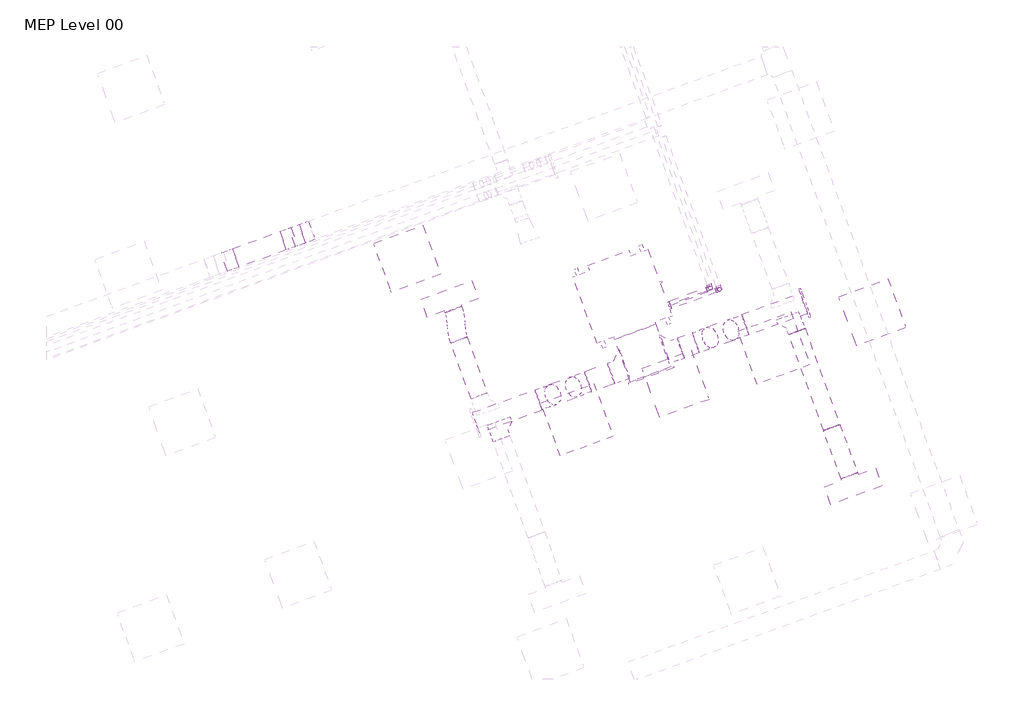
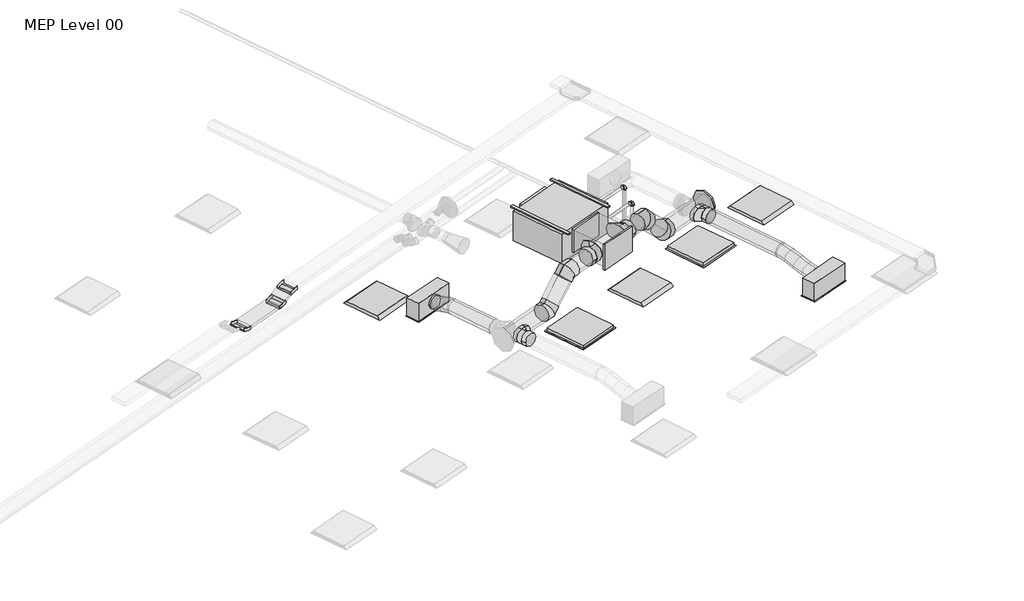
# One storey, part 28 of 33: 11 duct segments, 10 duct fittings, 4 air terminals, 4 pipe fittings, 4 pipe segments, 3 cable carrier fittings, 3 light fixtures, 2 cable carrier segments, 1 proxy.
"""IFC4 building model written with IfcOpenShell, lengths in millimetres."""

from ifc_helpers import new_model, si_unit, point, frame, frame_2d, origin, place, context, project, spatial, polyline, circle_curve, ellipse_curve, trimmed, segment, composite_curve, outline, extrude, transform, mapped, element, save
from ifc_brep_helpers import plane_surface, cylinder_surface, advanced_brep
from components import return_grille_rectangular_hosted_standard_7b12617c, supply_diffuser_with_plenum_linear_slot_hosted_8c379eed, fan_coil_unit_ceiling_ducted_chw_376_lps_233c1d69, cable_tray_vertical_inside_bend_standard_9a66f55b, cable_tray_vertical_outside_bend_standard_4df2047e, dw144_rectangular_blank_end_standard_1669e3e3, dw144_round_blank_end_standard_e3d0b58b, dw144_round_segmented_bend_slip_joint_standard_636bd9c1, dw144_round_shoe_branch_slip_joint_standard_15a2edd8, dw144_round_shoe_branch_slip_joint_standard_559552f4, dw144_round_shoe_branch_slip_joint_standard_4a92c8a1, dw144_round_shoe_branch_slip_joint_standard_671412f0, light_fixture_600x600_230_1c7c1157, light_fixture_600x600_230_b730b5ca, elbow_threaded_gmi_standard_b4aa7741

model = new_model("IFC4")

# Units and contexts
model_context = context("Model", 3, world=origin())
ifc_project = project(units=[si_unit("LENGTHUNIT", "METRE", prefix="MILLI")], contexts=[model_context])

# Site, building, storey
site = spatial("IfcSite", under=ifc_project)
building = spatial("IfcBuilding", under=site)
storey = spatial("IfcBuildingStorey", under=building, Name="MEP Level 00", Elevation=0.0)

# Air terminals
placement = place(None, origin())
return_grille_rectangular_hosted_standard_shape = return_grille_rectangular_hosted_standard_7b12617c(model_context)
element("IfcAirTerminal", 1, ObjectType="Return Grille - Rectangular - Hosted : Standard", at=placement, inside=storey, context=model_context, shape_type="MappedRepresentation", body=[
    mapped(return_grille_rectangular_hosted_standard_shape, transform((60068.7424503, 13719.2784407, 2800.0), x_axis=(0.9396926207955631, 0.3420201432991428, 0.0), y_axis=(0.3420201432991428, -0.9396926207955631, 0.0), z_axis=(0.0, 0.0, -1.0))),
])
element("IfcAirTerminal", 2, ObjectType="Return Grille - Rectangular - Hosted : Standard", at=placement, inside=storey, context=model_context, shape_type="MappedRepresentation", body=[
    mapped(return_grille_rectangular_hosted_standard_shape, transform((62324.0047402, 14540.1267847, 2800.0), x_axis=(0.9396926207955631, 0.3420201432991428, 0.0), y_axis=(0.3420201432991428, -0.9396926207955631, 0.0), z_axis=(0.0, 0.0, -1.0))),
])
supply_diffuser_with_plenum_linear_slot_hosted_shape = supply_diffuser_with_plenum_linear_slot_hosted_8c379eed(model_context)
element("IfcAirTerminal", 3, ObjectType="Supply Diffuser with Plenum - Linear Slot - Hosted : 600mmx193.8mm-200 In Inlet  4-Slot", at=placement, inside=storey, context=model_context, shape_type="MappedRepresentation", body=[
    mapped(supply_diffuser_with_plenum_linear_slot_hosted_shape, transform((58607.3828335, 15102.9070291, 2800.0), x_axis=(-0.9396926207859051, -0.3420201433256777, 0.0), y_axis=(-0.3420201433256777, 0.9396926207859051, 0.0), z_axis=(0.0, 0.0, -1.0))),
])
element("IfcAirTerminal", 4, ObjectType="Supply Diffuser with Plenum - Linear Slot - Hosted : 600mmx193.8mm-200 In Inlet  4-Slot", at=placement, inside=storey, context=model_context, shape_type="MappedRepresentation", body=[
    mapped(supply_diffuser_with_plenum_linear_slot_hosted_shape, transform((63232.5431876, 12955.2877458, 2800.0), x_axis=(0.9396926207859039, 0.342020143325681, 0.0), y_axis=(0.342020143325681, -0.9396926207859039, 0.0), z_axis=(0.0, 0.0, -1.0))),
])

# Proxy
fan_coil_unit_ceiling_ducted_chw_376_lps_shape = fan_coil_unit_ceiling_ducted_chw_376_lps_233c1d69(model_context)
element("IfcBuildingElementProxy", 5, Name="Fan Coil Unit - Ceiling Ducted - CHW : 376 LPS", ObjectType="Fan Coil Unit - Ceiling Ducted - CHW : 376 LPS", at=placement, inside=storey, context=model_context, shape_type="MappedRepresentation", body=[
    mapped(fan_coil_unit_ceiling_ducted_chw_376_lps_shape, transform((60297.8420212, 14594.4554515, 3215.575), x_axis=(0.9396926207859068, 0.34202014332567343, 0.0), y_axis=(-0.34202014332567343, 0.9396926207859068, 0.0), z_axis=(0.0, 0.0, 1.0))),
])

# Cable carrier fittings
cable_tray_vertical_inside_bend_standard_shape = cable_tray_vertical_inside_bend_standard_9a66f55b(model_context)
element("IfcCableCarrierFitting", 6, ObjectType="Cable Tray Vertical Inside Bend : Standard", at=placement, inside=storey, context=model_context, shape_type="MappedRepresentation", body=[
    mapped(cable_tray_vertical_inside_bend_standard_shape, transform((56092.1995201, 15550.3330379, 3125.0), x_axis=(-0.9396926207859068, -0.3420201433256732, 0.0), y_axis=(0.0, 0.0, 1.0), z_axis=(-0.3420201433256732, 0.9396926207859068, 0.0))),
])
element("IfcCableCarrierFitting", 7, ObjectType="Cable Tray Vertical Inside Bend : Standard", at=placement, inside=storey, context=model_context, shape_type="MappedRepresentation", body=[
    mapped(cable_tray_vertical_inside_bend_standard_shape, transform((56761.0702068, 15793.7820584, 3125.0), x_axis=(-0.8137976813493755, -0.29619813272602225, -0.4999999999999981), y_axis=(-0.46984631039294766, -0.17101007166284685, 0.8660254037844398), z_axis=(-0.3420201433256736, 0.9396926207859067, 0.0))),
])
cable_tray_vertical_outside_bend_standard_shape = cable_tray_vertical_outside_bend_standard_4df2047e(model_context)
element("IfcCableCarrierFitting", 8, ObjectType="Cable Tray Vertical Outside Bend : Standard", at=placement, inside=storey, context=model_context, shape_type="MappedRepresentation", body=[
    mapped(cable_tray_vertical_outside_bend_standard_shape, transform((56962.8313802, 15867.2171199, 3248.9627355), x_axis=(0.8137976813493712, 0.29619813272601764, 0.5000000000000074), y_axis=(0.4698463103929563, 0.17101007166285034, -0.8660254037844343), z_axis=(-0.3420201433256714, 0.9396926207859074, 0.0))),
])

# Cable carrier segments
element("IfcCableCarrierSegment", 9, ObjectType="Perforated Cable Tray", at=placement, inside=storey, context=model_context, shape_type="SweptSolid", body=[
    extrude(outline(polyline([(56193.624256, 15467.5286233), (56116.6697237, 15678.959463), (56659.645471, 15876.5864729), (56736.6000032, 15665.1556332), (56193.624256, 15467.5286233)])), frame((0.0, 0.0, 3100.0), z_axis=(0.0, 0.0, 1.0), x_axis=(1.0, 0.0, 0.0)), (0.0, 0.0, 1.0), 50.0),
])
element("IfcCableCarrierSegment", 10, ObjectType="Perforated Cable Tray", at=placement, inside=storey, context=model_context, shape_type="SweptSolid", body=[
    extrude(outline(polyline([(1e-07, -224.9999999), (0.0, 0.0), (113.9508747, 0.0), (113.9508747, -224.9999999), (1e-07, -224.9999999)])), frame((56788.8532063, 15923.6142426, 3136.843014), z_axis=(-0.4698463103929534, -0.17101007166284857, 0.8660254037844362), x_axis=(0.813797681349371, 0.2961981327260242, 0.5000000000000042)), (0.0, 0.0, 1.0), 50.0),
])

# Duct fittings
dw144_rectangular_blank_end_standard_shape = dw144_rectangular_blank_end_standard_1669e3e3(model_context)
element("IfcDuctFitting", 11, ObjectType="DW144 Rectangular Blank End : Standard", at=placement, inside=storey, context=model_context, shape_type="MappedRepresentation", body=[
    mapped(dw144_rectangular_blank_end_standard_shape, transform((60913.8704656, 14238.6945827, 3469.575), x_axis=(0.34202014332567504, -0.9396926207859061, 0.0), y_axis=(0.9396926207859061, 0.34202014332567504, 0.0), z_axis=(0.0, 0.0, 1.0))),
])
dw144_round_blank_end_standard_shape = dw144_round_blank_end_standard_e3d0b58b(model_context)
element("IfcDuctFitting", 12, ObjectType="DW144 Round Blank End : Standard", at=placement, inside=storey, context=model_context, shape_type="MappedRepresentation", body=[
    mapped(dw144_round_blank_end_standard_shape, transform((62668.7217522, 15052.7517594, 3072.2088531), x_axis=(0.9396926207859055, 0.3420201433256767, 0.0), y_axis=(-0.3420201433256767, 0.9396926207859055, 0.0), z_axis=(0.0, 0.0, 1.0))),
])
dw144_round_segmented_bend_slip_joint_standard_shape = dw144_round_segmented_bend_slip_joint_standard_636bd9c1(model_context)
element("IfcDuctFitting", 13, ObjectType="DW144 Round Segmented Bend - Slip Joint : Standard", at=placement, inside=storey, context=model_context, shape_type="MappedRepresentation", body=[
    mapped(dw144_round_segmented_bend_slip_joint_standard_shape, transform((61898.7954922, 14772.5215182, 3072.2088531), x_axis=(0.6644630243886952, 0.24184476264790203, -0.7071067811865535), y_axis=(0.6644630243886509, 0.2418447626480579, 0.7071067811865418), z_axis=(0.3420201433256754, -0.939692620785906, 0.0))),
])
element("IfcDuctFitting", 14, ObjectType="DW144 Round Segmented Bend - Slip Joint : Standard", at=placement, inside=storey, context=model_context, shape_type="MappedRepresentation", body=[
    mapped(dw144_round_segmented_bend_slip_joint_standard_shape, transform((61525.3934562, 14636.6142917, 3469.575), x_axis=(0.9396926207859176, 0.3420201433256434, 0.0), y_axis=(0.0, 0.0, -1.0), z_axis=(-0.3420201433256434, 0.9396926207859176, 0.0))),
])
element("IfcDuctFitting", 15, ObjectType="DW144 Round Segmented Bend - Slip Joint : Standard", at=placement, inside=storey, context=model_context, shape_type="MappedRepresentation", body=[
    mapped(dw144_round_segmented_bend_slip_joint_standard_shape, transform((59723.6586367, 13980.8364474, 3072.2088531), x_axis=(-0.6644630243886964, -0.24184476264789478, -0.7071067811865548), y_axis=(-0.6644630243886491, -0.24184476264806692, 0.7071067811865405), z_axis=(-0.34202014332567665, 0.9396926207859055, 0.0))),
])
element("IfcDuctFitting", 16, ObjectType="DW144 Round Segmented Bend - Slip Joint : Standard", at=placement, inside=storey, context=model_context, shape_type="MappedRepresentation", body=[
    mapped(dw144_round_segmented_bend_slip_joint_standard_shape, transform((60097.0606726, 14116.7436739, 3469.575), x_axis=(-0.9396926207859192, -0.3420201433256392, 0.0), y_axis=(0.0, 0.0, -1.0000000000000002), z_axis=(0.3420201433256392, -0.9396926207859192, 0.0))),
])
dw144_round_shoe_branch_slip_joint_standard_shape = dw144_round_shoe_branch_slip_joint_standard_15a2edd8(model_context)
element("IfcDuctFitting", 17, ObjectType="DW144 Round Shoe Branch - Slip Joint : Standard", at=placement, inside=storey, context=model_context, shape_type="MappedRepresentation", body=[
    mapped(dw144_round_shoe_branch_slip_joint_standard_shape, transform((62535.2291867, 14871.1422175, 3072.2088531), x_axis=(0.3420201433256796, -0.9396926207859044, 0.0), y_axis=(0.9396926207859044, 0.3420201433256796, 0.0), z_axis=(0.0, 0.0, 1.0))),
])
dw144_round_shoe_branch_slip_joint_standard_2_shape = dw144_round_shoe_branch_slip_joint_standard_559552f4(model_context)
element("IfcDuctFitting", 18, ObjectType="DW144 Round Shoe Branch - Slip Joint : Standard", at=placement, inside=storey, context=model_context, shape_type="MappedRepresentation", body=[
    mapped(dw144_round_shoe_branch_slip_joint_standard_2_shape, transform((59152.3357519, 13639.8697016, 3072.2088531), x_axis=(0.3420201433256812, -0.9396926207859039, 0.0), y_axis=(0.9396926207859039, 0.3420201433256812, 0.0), z_axis=(0.0, 0.0, 1.0))),
])
dw144_round_shoe_branch_slip_joint_standard_3_shape = dw144_round_shoe_branch_slip_joint_standard_4a92c8a1(model_context)
element("IfcDuctFitting", 19, ObjectType="DW144 Round Shoe Branch - Slip Joint : Standard", at=placement, inside=storey, context=model_context, shape_type="MappedRepresentation", body=[
    mapped(dw144_round_shoe_branch_slip_joint_standard_3_shape, transform((61092.4392924, 14479.0318633, 3469.575), x_axis=(0.9396926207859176, 0.3420201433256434, 0.0), y_axis=(0.3420201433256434, -0.9396926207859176, 0.0), z_axis=(0.0, 0.0, -1.0))),
])
dw144_round_shoe_branch_slip_joint_standard_4_shape = dw144_round_shoe_branch_slip_joint_standard_671412f0(model_context)
element("IfcDuctFitting", 20, ObjectType="DW144 Round Shoe Branch - Slip Joint : Standard", at=placement, inside=storey, context=model_context, shape_type="MappedRepresentation", body=[
    mapped(dw144_round_shoe_branch_slip_joint_standard_4_shape, transform((60622.592982, 14308.0217916, 3469.575), x_axis=(-0.9396926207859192, -0.3420201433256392, 0.0), y_axis=(-0.3420201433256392, 0.9396926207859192, 0.0), z_axis=(0.0, 0.0, -1.0))),
])

# Duct segments
element("IfcDuctSegment", 21, ObjectType="DW144 Flanged Med Radius Bend / Shoe Branch", at=placement, inside=storey, context=model_context, shape_type="SweptSolid", body=[
    extrude(outline(polyline([(60501.2336439, 14641.4538326), (60971.0799543, 14812.4639042), (61148.7936208, 14324.1996185), (60678.9473104, 14153.1895468), (60501.2336439, 14641.4538326)])), frame((0.0, 0.0, 3294.575), z_axis=(0.0, 0.0, 1.0), x_axis=(1.0, 0.0, 0.0)), (0.0, 0.0, 1.0), 350.0),
])
element("IfcDuctSegment", 22, ObjectType="DW144 Segmented Bend / Shoe Branch", at=placement, inside=storey, context=model_context, shape_type="SweptSolid", body=[
    extrude(outline(composite_curve([segment(trimmed(circle_curve(frame_2d((0.0, -125.0)), 125.0), [point((-125.0, -125.0))], [point((0.0, 0.0))], False, "CARTESIAN"), True, "CONTINUOUS"), segment(trimmed(circle_curve(frame_2d((0.0, -125.0)), 125.0), [point((0.0, 0.0))], [point((125.0, -125.0))], False, "CARTESIAN"), True, "CONTINUOUS"), segment(trimmed(circle_curve(frame_2d((0.0, -125.0)), 125.0), [point((125.0, -125.0))], [point((0.0, -250.0))], False, "CARTESIAN"), True, "CONTINUOUS"), segment(trimmed(circle_curve(frame_2d((0.0, -125.0)), 125.0), [point((0.0, -250.0))], [point((-125.0, -125.0))], False, "CARTESIAN"), True, "CONTINUOUS")], self_intersect=False)), frame((61996.1038492, 14807.9388637, 2947.2088531), z_axis=(0.9396926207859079, 0.3420201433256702, 0.0), x_axis=(0.3420201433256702, -0.9396926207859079, 0.0)), (0.0, 0.0, 1.0), 715.7850217),
])
element("IfcDuctSegment", 23, ObjectType="DW144 Segmented Bend / Shoe Branch", at=placement, inside=storey, context=model_context, shape_type="SweptSolid", body=[
    extrude(outline(composite_curve([segment(trimmed(circle_curve(frame_2d((0.0, 125.0)), 125.0), [point((125.0, 125.0))], [point((0.0, 0.0))], False, "CARTESIAN"), True, "CONTINUOUS"), segment(trimmed(circle_curve(frame_2d((0.0, 125.0)), 125.0), [point((0.0, 0.0))], [point((-125.0, 125.0))], False, "CARTESIAN"), True, "CONTINUOUS"), segment(trimmed(circle_curve(frame_2d((0.0, 125.0)), 125.0), [point((-125.0, 125.0))], [point((0.0, 250.0))], False, "CARTESIAN"), True, "CONTINUOUS"), segment(trimmed(circle_curve(frame_2d((0.0, 125.0)), 125.0), [point((0.0, 250.0))], [point((125.0, 125.0))], False, "CARTESIAN"), True, "CONTINUOUS")], self_intersect=False)), frame((58910.1934303, 13684.7593256, 3197.2088531), z_axis=(0.9396926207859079, 0.3420201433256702, 0.0), x_axis=(0.3420201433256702, -0.9396926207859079, 0.0)), (0.0, 0.0, 1.0), 762.1182008),
])
element("IfcDuctSegment", 24, ObjectType="DW144 Segmented Bend / Shoe Branch", at=placement, inside=storey, context=model_context, shape_type="SweptSolid", body=[
    extrude(outline(composite_curve([segment(trimmed(circle_curve(frame_2d((0.0, -100.0)), 100.0), [point((-100.0, -100.0))], [point((0.0, 0.0))], False, "CARTESIAN"), True, "CONTINUOUS"), segment(trimmed(circle_curve(frame_2d((0.0, -100.0)), 100.0), [point((0.0, 0.0))], [point((100.0, -100.0))], False, "CARTESIAN"), True, "CONTINUOUS"), segment(trimmed(circle_curve(frame_2d((0.0, -100.0)), 100.0), [point((100.0, -100.0))], [point((0.0, -200.0))], False, "CARTESIAN"), True, "CONTINUOUS"), segment(trimmed(circle_curve(frame_2d((0.0, -100.0)), 100.0), [point((0.0, -200.0))], [point((-100.0, -100.0))], False, "CARTESIAN"), True, "CONTINUOUS")], self_intersect=False)), frame((62987.2757878, 13629.1543884, 2972.2088531), z_axis=(-0.34202014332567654, 0.9396926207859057, 0.0), x_axis=(0.9396926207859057, 0.34202014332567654, 0.0)), (0.0, 0.0, 1.0), 1171.6958415),
])
element("IfcDuctSegment", 25, ObjectType="DW144 Segmented Bend / Shoe Branch", at=placement, inside=storey, context=model_context, shape_type="SweptSolid", body=[
    extrude(outline(composite_curve([segment(trimmed(circle_curve(frame_2d((0.0, -100.0)), 100.0), [point((-100.0, -100.0))], [point((0.0, 0.0))], False, "CARTESIAN"), True, "CONTINUOUS"), segment(trimmed(circle_curve(frame_2d((0.0, -100.0)), 100.0), [point((0.0, 0.0))], [point((100.0, -100.0))], False, "CARTESIAN"), True, "CONTINUOUS"), segment(trimmed(circle_curve(frame_2d((0.0, -100.0)), 100.0), [point((100.0, -100.0))], [point((0.0, -200.0))], False, "CARTESIAN"), True, "CONTINUOUS"), segment(trimmed(circle_curve(frame_2d((0.0, -100.0)), 100.0), [point((0.0, -200.0))], [point((-100.0, -100.0))], False, "CARTESIAN"), True, "CONTINUOUS")], self_intersect=False)), frame((58946.9755404, 13990.7958063, 2972.2088531), z_axis=(-0.3420201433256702, 0.9396926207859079, 0.0), x_axis=(0.9396926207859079, 0.3420201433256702, 0.0)), (0.0, 0.0, 1.0), 682.8884371),
])
element("IfcDuctSegment", 26, ObjectType="DW144 Segmented Bend / Shoe Branch", at=placement, inside=storey, context=model_context, shape_type="SweptSolid", body=[
    extrude(outline(composite_curve([segment(trimmed(circle_curve(frame_2d((0.0, 125.0)), 125.0), [point((124.9999999, 125.0))], [point((0.0, 0.0))], False, "CARTESIAN"), True, "CONTINUOUS"), segment(trimmed(circle_curve(frame_2d((0.0, 125.0)), 125.0), [point((0.0, 0.0))], [point((-125.0, 125.0))], False, "CARTESIAN"), True, "CONTINUOUS"), segment(trimmed(circle_curve(frame_2d((0.0, 125.0)), 125.0), [point((-125.0, 125.0))], [point((0.0, 250.0))], False, "CARTESIAN"), True, "CONTINUOUS"), segment(trimmed(circle_curve(frame_2d((0.0, 125.0)), 125.0), [point((0.0, 250.0))], [point((124.9999999, 125.0))], False, "CARTESIAN"), True, "CONTINUOUS")], self_intersect=False)), frame((61256.885501, 14538.8853883, 3594.575), z_axis=(0.9396926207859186, 0.3420201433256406, 0.0), x_axis=(0.3420201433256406, -0.9396926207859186, 0.0)), (0.0, 0.0, 1.0), 182.1868071),
])
element("IfcDuctSegment", 27, ObjectType="DW144 Segmented Bend / Shoe Branch", at=placement, inside=storey, context=model_context, shape_type="SweptSolid", body=[
    extrude(outline(composite_curve([segment(trimmed(circle_curve(frame_2d((0.0, -125.0)), 125.0), [point((-125.0, -125.0))], [point((0.0, 0.0))], False, "CARTESIAN"), True, "CONTINUOUS"), segment(trimmed(circle_curve(frame_2d((0.0, -125.0)), 125.0), [point((0.0, 0.0))], [point((125.0, -125.0))], False, "CARTESIAN"), True, "CONTINUOUS"), segment(trimmed(circle_curve(frame_2d((0.0, -125.0)), 125.0), [point((125.0, -125.0))], [point((0.0, -250.0))], False, "CARTESIAN"), True, "CONTINUOUS"), segment(trimmed(circle_curve(frame_2d((0.0, -125.0)), 125.0), [point((0.0, -250.0))], [point((-125.0, -125.0))], False, "CARTESIAN"), True, "CONTINUOUS")], self_intersect=False)), frame((60194.3690296, 14152.1610194, 3344.575), z_axis=(0.9396926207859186, 0.3420201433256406, 0.0), x_axis=(0.3420201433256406, -0.9396926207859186, 0.0)), (0.0, 0.0, 1.0), 280.7064117),
])
element("IfcDuctSegment", 28, ObjectType="DW144 Segmented Bend / Shoe Branch", at=placement, inside=storey, context=model_context, shape_type="SweptSolid", body=[
    extrude(outline(composite_curve([segment(trimmed(circle_curve(frame_2d((0.0, -125.0)), 125.0), [point((57.2076922, -236.1408113))], [point((-111.1408114, -182.2076923))], False, "CARTESIAN"), True, "CONTINUOUS"), segment(trimmed(circle_curve(frame_2d((0.0, -125.0)), 125.0), [point((-111.1408114, -182.2076923))], [point((-57.2076923, -13.8591886))], False, "CARTESIAN"), True, "CONTINUOUS"), segment(trimmed(circle_curve(frame_2d((0.0, -125.0)), 125.0), [point((-57.2076923, -13.8591886))], [point((111.1408113, -67.7923077))], False, "CARTESIAN"), True, "CONTINUOUS"), segment(trimmed(circle_curve(frame_2d((0.0, -125.0)), 125.0), [point((111.1408113, -67.7923077))], [point((57.2076922, -236.1408113))], False, "CARTESIAN"), True, "CONTINUOUS")], self_intersect=False)), frame((61829.9880931, 14865.7512541, 3185.884105), z_axis=(-0.6644630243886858, -0.24184476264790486, 0.7071067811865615), x_axis=(0.7473211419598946, -0.2150305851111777, 0.6287073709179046)), (0.0, 0.0, 1.0), 354.8538129),
])
element("IfcDuctSegment", 29, ObjectType="DW144 Segmented Bend / Shoe Branch", at=placement, inside=storey, context=model_context, shape_type="SweptSolid", body=[
    extrude(outline(composite_curve([segment(trimmed(circle_curve(frame_2d((0.0, -125.0)), 125.0), [point((-57.2076922, -13.8591887))], [point((111.1408113, -67.7923077))], False, "CARTESIAN"), True, "CONTINUOUS"), segment(trimmed(circle_curve(frame_2d((0.0, -125.0)), 125.0), [point((111.1408113, -67.7923077))], [point((57.2076923, -236.1408114))], False, "CARTESIAN"), True, "CONTINUOUS"), segment(trimmed(circle_curve(frame_2d((0.0, -125.0)), 125.0), [point((57.2076923, -236.1408114))], [point((-111.1408114, -182.2076923))], False, "CARTESIAN"), True, "CONTINUOUS"), segment(trimmed(circle_curve(frame_2d((0.0, -125.0)), 125.0), [point((-111.1408114, -182.2076923))], [point((-57.2076922, -13.8591887))], False, "CARTESIAN"), True, "CONTINUOUS")], self_intersect=False)), frame((59792.4660358, 14124.1538736, 3104.9802107), z_axis=(0.6644630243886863, 0.24184476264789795, 0.7071067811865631), x_axis=(0.7473211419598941, -0.21503058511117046, -0.6287073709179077)), (0.0, 0.0, 1.0), 354.8538129),
])
element("IfcDuctSegment", 30, ObjectType="Flex - Round", at=placement, inside=storey, context=model_context, shape_type="AdvancedBrep", body=[
    advanced_brep(
    [(58619.4446772, 14598.2990171, 3072.2088531), (58713.4139393, 14632.5010315, 2972.2088531), (58807.3832013, 14666.7030458, 3072.2088531), (58713.4139393, 14632.5010315, 3172.2088531), (58611.8142221, 14619.26352, 3072.2088531), (58711.4296321, 14637.9528704, 2972.2088531), (58803.6155299, 14677.054638, 3072.2088531), (58704.0001199, 14658.3652876, 3172.2088531), (58557.4999679, 14947.578636, 2954.4), (58651.46923, 14981.7806503, 3054.4), (58745.4384921, 15015.9826646, 2954.4), (58651.46923, 14981.7806503, 2854.4), (58596.4446641, 14683.4841683, 3057.7411781), (58702.9406834, 14673.4233627, 2964.2180345), (58792.9533059, 14721.6060124, 3062.1722867), (58686.4572866, 14731.6668179, 3155.6954303), (58586.4251451, 14759.2467003, 3026.0114711), (58695.241092, 14731.6437764, 2939.8350497), (58784.5209536, 14785.3671928, 3035.4688025), (58675.7050067, 14812.9701167, 3121.645224), (58580.3622156, 14828.914489, 2991.1400506), (58689.1781625, 14801.3115651, 2904.9636291), (58778.4580242, 14855.0349815, 3000.597382), (58669.6420773, 14882.6379054, 3086.7738035), (58571.9298634, 14892.6756694, 2964.4365665), (58678.4258827, 14882.6148638, 2870.9134228), (58768.4385052, 14930.7975135, 2968.867675), (58661.9424858, 14940.858319, 3062.3908187), (58561.2676394, 14937.2270437, 2954.4), (58660.8830494, 14955.9163941, 2854.4), (58753.0689471, 14995.0181618, 2954.4), (58653.4535371, 14976.3288113, 3054.4)],
    [
        (0, 1, circle_curve(frame((58713.4139393, 14632.5010315, 3072.2088531), z_axis=(0.3420201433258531, -0.9396926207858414, 0.0), x_axis=(-0.9396926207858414, -0.3420201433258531, 0.0)), 100.0)),
        (1, 2, circle_curve(frame((58713.4139393, 14632.5010315, 3072.2088531), z_axis=(0.3420201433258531, -0.9396926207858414, 0.0), x_axis=(-0.9396926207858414, -0.3420201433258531, 0.0)), 100.0)),
        (2, 3, circle_curve(frame((58713.4139393, 14632.5010315, 3072.2088531), z_axis=(0.3420201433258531, -0.9396926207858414, 0.0), x_axis=(-0.9396926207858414, -0.3420201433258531, 0.0)), 100.0)),
        (3, 0, circle_curve(frame((58713.4139393, 14632.5010315, 3072.2088531), z_axis=(0.3420201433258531, -0.9396926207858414, 0.0), x_axis=(-0.9396926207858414, -0.3420201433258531, 0.0)), 100.0)),
        (0, 4),
        (4, 5, ellipse_curve(frame((58707.714876, 14648.159079, 3072.2088531), z_axis=(0.2868145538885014, -0.951900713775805, 0.10780743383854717), x_axis=(0.47182638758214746, 0.042424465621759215, -0.8806702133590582)), 100.746488, 100.0)),
        (5, 1),
        (5, 6, ellipse_curve(frame((58707.714876, 14648.159079, 3072.2088531), z_axis=(0.2868145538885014, -0.951900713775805, 0.10780743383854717), x_axis=(0.47182638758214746, 0.042424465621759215, -0.8806702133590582)), 100.746488, 100.0)),
        (6, 2),
        (6, 7, ellipse_curve(frame((58707.714876, 14648.159079, 3072.2088531), z_axis=(0.2868145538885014, -0.951900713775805, 0.10780743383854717), x_axis=(0.47182638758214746, 0.042424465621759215, -0.8806702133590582)), 100.746488, 100.0)),
        (7, 3),
        (7, 4, ellipse_curve(frame((58707.714876, 14648.159079, 3072.2088531), z_axis=(0.2868145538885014, -0.951900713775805, 0.10780743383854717), x_axis=(0.47182638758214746, 0.042424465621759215, -0.8806702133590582)), 100.746488, 100.0)),
        (8, 9, circle_curve(frame((58651.46923, 14981.7806503, 2954.4), z_axis=(-0.3420201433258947, 0.939692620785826, 0.0), x_axis=(-0.9396926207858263, -0.34202014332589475, 0.0)), 100.0)),
        (9, 10, circle_curve(frame((58651.46923, 14981.7806503, 2954.4), z_axis=(-0.3420201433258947, 0.939692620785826, 0.0), x_axis=(-0.9396926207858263, -0.34202014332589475, 0.0)), 100.0)),
        (10, 11, circle_curve(frame((58651.46923, 14981.7806503, 2954.4), z_axis=(-0.3420201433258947, 0.939692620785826, 0.0), x_axis=(-0.9396926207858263, -0.34202014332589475, 0.0)), 100.0)),
        (11, 8, circle_curve(frame((58651.46923, 14981.7806503, 2954.4), z_axis=(-0.3420201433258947, 0.939692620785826, 0.0), x_axis=(-0.9396926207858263, -0.34202014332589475, 0.0)), 100.0)),
        (4, 12),
        (12, 13, ellipse_curve(frame((58694.698985, 14702.5450903, 3059.9567324), z_axis=(0.17512607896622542, -0.9376352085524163, 0.3002849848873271), x_axis=(0.5236540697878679, -0.16957305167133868, -0.8348840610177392)), 100.5188435, 100.0)),
        (13, 5),
        (13, 14, ellipse_curve(frame((58694.698985, 14702.5450903, 3059.9567324), z_axis=(0.17512607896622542, -0.9376352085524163, 0.3002849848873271), x_axis=(0.5236540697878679, -0.16957305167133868, -0.8348840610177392)), 100.5188435, 100.0)),
        (14, 6),
        (14, 15, ellipse_curve(frame((58694.698985, 14702.5450903, 3059.9567324), z_axis=(0.17512607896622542, -0.9376352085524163, 0.3002849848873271), x_axis=(0.5236540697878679, -0.16957305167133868, -0.8348840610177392)), 100.5188435, 100.0)),
        (15, 7),
        (15, 12, ellipse_curve(frame((58694.698985, 14702.5450903, 3059.9567324), z_axis=(0.17512607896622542, -0.9376352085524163, 0.3002849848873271), x_axis=(0.5236540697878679, -0.16957305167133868, -0.8348840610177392)), 100.5188435, 100.0)),
        (12, 16),
        (16, 17, ellipse_curve(frame((58685.4730493, 14772.3069465, 3030.7401368), z_axis=(0.0994162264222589, -0.9042889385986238, 0.4151842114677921), x_axis=(0.5431382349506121, -0.3002937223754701, -0.7841074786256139)), 100.0802707, 100.0)),
        (17, 13),
        (17, 18, ellipse_curve(frame((58685.4730493, 14772.3069465, 3030.7401368), z_axis=(0.0994162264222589, -0.9042889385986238, 0.4151842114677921), x_axis=(0.5431382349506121, -0.3002937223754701, -0.7841074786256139)), 100.0802707, 100.0)),
        (18, 14),
        (18, 19, ellipse_curve(frame((58685.4730493, 14772.3069465, 3030.7401368), z_axis=(0.0994162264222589, -0.9042889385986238, 0.4151842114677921), x_axis=(0.5431382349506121, -0.3002937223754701, -0.7841074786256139)), 100.0802707, 100.0)),
        (19, 15),
        (19, 16, ellipse_curve(frame((58685.4730493, 14772.3069465, 3030.7401368), z_axis=(0.0994162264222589, -0.9042889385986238, 0.4151842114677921), x_axis=(0.5431382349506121, -0.3002937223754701, -0.7841074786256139)), 100.0802707, 100.0)),
        (16, 20),
        (20, 21, ellipse_curve(frame((58679.4101199, 14841.9747352, 2995.8687163), z_axis=(0.09941622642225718, -0.9042889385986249, 0.41518421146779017), x_axis=(-0.5431382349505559, 0.30029372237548, 0.784107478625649)), 100.0802707, 100.0)),
        (21, 17),
        (21, 22, ellipse_curve(frame((58679.4101199, 14841.9747352, 2995.8687163), z_axis=(0.09941622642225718, -0.9042889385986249, 0.41518421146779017), x_axis=(-0.5431382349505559, 0.30029372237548, 0.784107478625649)), 100.0802707, 100.0)),
        (22, 18),
        (22, 23, ellipse_curve(frame((58679.4101199, 14841.9747352, 2995.8687163), z_axis=(0.09941622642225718, -0.9042889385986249, 0.41518421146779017), x_axis=(-0.5431382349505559, 0.30029372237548, 0.784107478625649)), 100.0802707, 100.0)),
        (23, 19),
        (23, 20, ellipse_curve(frame((58679.4101199, 14841.9747352, 2995.8687163), z_axis=(0.09941622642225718, -0.9042889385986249, 0.41518421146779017), x_axis=(-0.5431382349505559, 0.30029372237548, 0.784107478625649)), 100.0802707, 100.0)),
        (20, 24),
        (24, 25, ellipse_curve(frame((58670.1841843, 14911.7365914, 2966.6521207), z_axis=(0.1751260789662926, -0.9376352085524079, 0.3002849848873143), x_axis=(-0.523654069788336, 0.16957305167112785, 0.8348840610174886)), 100.5188435, 100.0)),
        (25, 21),
        (25, 26, ellipse_curve(frame((58670.1841843, 14911.7365914, 2966.6521207), z_axis=(0.1751260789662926, -0.9376352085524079, 0.3002849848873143), x_axis=(-0.523654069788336, 0.16957305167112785, 0.8348840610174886)), 100.5188435, 100.0)),
        (26, 22),
        (26, 27, ellipse_curve(frame((58670.1841843, 14911.7365914, 2966.6521207), z_axis=(0.1751260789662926, -0.9376352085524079, 0.3002849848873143), x_axis=(-0.523654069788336, 0.16957305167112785, 0.8348840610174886)), 100.5188435, 100.0)),
        (27, 23),
        (27, 24, ellipse_curve(frame((58670.1841843, 14911.7365914, 2966.6521207), z_axis=(0.1751260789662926, -0.9376352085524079, 0.3002849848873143), x_axis=(-0.523654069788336, 0.16957305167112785, 0.8348840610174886)), 100.5188435, 100.0)),
        (24, 28),
        (28, 29, ellipse_curve(frame((58657.1682932, 14966.1226027, 2954.4), z_axis=(0.2868145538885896, -0.95190071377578, 0.10780743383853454), x_axis=(-0.4718263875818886, -0.04242446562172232, 0.8806702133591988)), 100.746488, 100.0)),
        (29, 25),
        (29, 30, ellipse_curve(frame((58657.1682932, 14966.1226027, 2954.4), z_axis=(0.2868145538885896, -0.95190071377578, 0.10780743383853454), x_axis=(-0.4718263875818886, -0.04242446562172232, 0.8806702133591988)), 100.746488, 100.0)),
        (30, 26),
        (30, 31, ellipse_curve(frame((58657.1682932, 14966.1226027, 2954.4), z_axis=(0.2868145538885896, -0.95190071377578, 0.10780743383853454), x_axis=(-0.4718263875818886, -0.04242446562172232, 0.8806702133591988)), 100.746488, 100.0)),
        (31, 27),
        (31, 28, ellipse_curve(frame((58657.1682932, 14966.1226027, 2954.4), z_axis=(0.2868145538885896, -0.95190071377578, 0.10780743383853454), x_axis=(-0.4718263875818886, -0.04242446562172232, 0.8806702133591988)), 100.746488, 100.0)),
        (28, 8),
        (11, 29),
        (10, 30),
        (9, 31),
    ],
    [
        plane_surface(frame((58713.4139393, 14632.5010315, 3172.2088531), z_axis=(0.3420201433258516, -0.9396926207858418, 0.0), x_axis=(0.9396926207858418, 0.3420201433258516, 0.0))),
        cylinder_surface(frame((58713.4139393, 14632.5010315, 3072.2088531), z_axis=(0.3420201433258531, -0.9396926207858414, 0.0), x_axis=(-0.9396926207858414, -0.3420201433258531, 0.0)), 100.0),
        plane_surface(frame((58651.46923, 14981.7806503, 3054.4), z_axis=(-0.3420201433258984, 0.9396926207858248, 0.0), x_axis=(0.9396926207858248, 0.3420201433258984, 0.0))),
        cylinder_surface(frame((58707.714876, 14648.159079, 3072.2088531), z_axis=(0.2273586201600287, -0.950002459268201, 0.21401725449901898), x_axis=(-0.9718455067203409, -0.23530883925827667, -0.012085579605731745)), 100.0),
        cylinder_surface(frame((58694.698985, 14702.5450903, 3059.9567324), z_axis=(0.12108565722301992, -0.9155884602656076, 0.3834527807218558), x_axis=(-0.9882405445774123, -0.1475288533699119, -0.0401978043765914)), 100.0),
        cylinder_surface(frame((58685.4730493, 14772.3069465, 3030.7401368), z_axis=(0.07758731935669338, -0.8915388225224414, 0.44624963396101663), x_axis=(-0.9919133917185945, -0.1141206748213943, -0.05553642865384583)), 100.0),
        cylinder_surface(frame((58679.4101199, 14841.9747352, 2995.8687163), z_axis=(0.12108565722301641, -0.9155884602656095, 0.3834527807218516), x_axis=(-0.9882405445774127, -0.1475288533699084, -0.040197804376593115)), 100.0),
        cylinder_surface(frame((58670.1841843, 14911.7365914, 2966.6521207), z_axis=(0.22735862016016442, -0.950002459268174, 0.21401725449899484), x_axis=(-0.9718455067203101, -0.2353088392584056, -0.012085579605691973)), 100.0),
        cylinder_surface(frame((58657.1682932, 14966.1226027, 2954.4), z_axis=(0.34202014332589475, -0.9396926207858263, 0.0), x_axis=(-0.9396926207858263, -0.34202014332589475, 0.0)), 100.0),
    ],
    [
        (0, [[1, 2, 3, 4]]),
        (1, [[-1, 5, 6, 7]]),
        (1, [[-2, -7, 8, 9]]),
        (1, [[-3, -9, 10, 11]]),
        (1, [[-4, -11, 12, -5]]),
        (2, [[13, 14, 15, 16]]),
        (3, [[-6, 17, 18, 19]]),
        (3, [[-8, -19, 20, 21]]),
        (3, [[-10, -21, 22, 23]]),
        (3, [[-12, -23, 24, -17]]),
        (4, [[-18, 25, 26, 27]]),
        (4, [[-20, -27, 28, 29]]),
        (4, [[-22, -29, 30, 31]]),
        (4, [[-24, -31, 32, -25]]),
        (5, [[-26, 33, 34, 35]]),
        (5, [[-28, -35, 36, 37]]),
        (5, [[-30, -37, 38, 39]]),
        (5, [[-32, -39, 40, -33]]),
        (6, [[-34, 41, 42, 43]]),
        (6, [[-36, -43, 44, 45]]),
        (6, [[-38, -45, 46, 47]]),
        (6, [[-40, -47, 48, -41]]),
        (7, [[-42, 49, 50, 51]]),
        (7, [[-44, -51, 52, 53]]),
        (7, [[-46, -53, 54, 55]]),
        (7, [[-48, -55, 56, -49]]),
        (8, [[-50, 57, -16, 58]]),
        (8, [[-52, -58, -15, 59]]),
        (8, [[-54, -59, -14, 60]]),
        (8, [[-56, -60, -13, -57]]),
    ],
),
])
element("IfcDuctSegment", 31, ObjectType="Flex - Round", at=placement, inside=storey, context=model_context, shape_type="AdvancedBrep", body=[
    advanced_brep(
    [(63081.2450499, 13663.3564027, 3072.2088531), (62987.2757878, 13629.1543884, 2972.2088531), (62893.3065257, 13594.952374, 3072.2088531), (62987.2757878, 13629.1543884, 3172.2088531), (63085.4622602, 13651.7697128, 3072.2088531), (62989.1858231, 13623.9066095, 2972.2088531), (62897.523736, 13583.3656841, 3072.2088531), (62993.800173, 13611.2287874, 3172.2088531), (63282.4260532, 13110.616139, 2954.4), (63188.4567912, 13076.4141246, 3054.4), (63094.4875291, 13042.2121103, 2954.4), (63188.4567912, 13076.4141246, 2854.4), (63131.9148616, 13524.1422392, 3053.8012198), (63031.0450129, 13508.8994309, 2955.6214373), (62943.9763375, 13455.7382106, 3053.8012198), (63044.8461862, 13470.9810189, 3151.9810023), (63181.8355516, 13386.9862709, 3013.3044266), (63078.7222223, 13377.9073745, 2916.9446062), (62993.8970274, 13318.5822422, 3013.3044266), (63097.0103566, 13327.6611385, 3109.6642469), (63231.7562415, 13249.8303025, 2972.8076333), (63130.8863928, 13234.5874941, 2874.6278508), (63043.8177174, 13181.4262738, 2972.8076333), (63144.6875661, 13196.6690821, 3070.9874158), (63278.208843, 13122.2028289, 2954.4), (63181.932406, 13094.3397257, 2854.4), (63090.2703188, 13053.7988003, 2954.4), (63186.5467558, 13081.6619035, 3054.4)],
    [
        (0, 1, circle_curve(frame((62987.2757878, 13629.1543884, 3072.2088531), z_axis=(-0.34202014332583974, 0.9396926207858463, 0.0), x_axis=(0.9396926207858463, 0.34202014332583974, 0.0)), 100.0)),
        (1, 2, circle_curve(frame((62987.2757878, 13629.1543884, 3072.2088531), z_axis=(-0.34202014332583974, 0.9396926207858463, 0.0), x_axis=(0.9396926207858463, 0.34202014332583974, 0.0)), 100.0)),
        (2, 3, circle_curve(frame((62987.2757878, 13629.1543884, 3072.2088531), z_axis=(-0.34202014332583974, 0.9396926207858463, 0.0), x_axis=(0.9396926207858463, 0.34202014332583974, 0.0)), 100.0)),
        (3, 0, circle_curve(frame((62987.2757878, 13629.1543884, 3072.2088531), z_axis=(-0.34202014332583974, 0.9396926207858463, 0.0), x_axis=(0.9396926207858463, 0.34202014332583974, 0.0)), 100.0)),
        (0, 4),
        (4, 5, ellipse_curve(frame((62991.4929981, 13617.5676984, 3072.2088531), z_axis=(-0.3412446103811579, 0.9375618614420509, 0.06730432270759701), x_axis=(-0.023019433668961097, 0.06324537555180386, -0.9977324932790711)), 100.227266, 100.0)),
        (5, 1),
        (5, 6, ellipse_curve(frame((62991.4929981, 13617.5676984, 3072.2088531), z_axis=(-0.3412446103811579, 0.9375618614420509, 0.06730432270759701), x_axis=(-0.023019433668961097, 0.06324537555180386, -0.9977324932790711)), 100.227266, 100.0)),
        (6, 2),
        (6, 7, ellipse_curve(frame((62991.4929981, 13617.5676984, 3072.2088531), z_axis=(-0.3412446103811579, 0.9375618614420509, 0.06730432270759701), x_axis=(-0.023019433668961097, 0.06324537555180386, -0.9977324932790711)), 100.227266, 100.0)),
        (7, 3),
        (7, 4, ellipse_curve(frame((62991.4929981, 13617.5676984, 3072.2088531), z_axis=(-0.3412446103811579, 0.9375618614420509, 0.06730432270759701), x_axis=(-0.023019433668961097, 0.06324537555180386, -0.9977324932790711)), 100.227266, 100.0)),
        (8, 9, circle_curve(frame((63188.4567912, 13076.4141246, 2954.4), z_axis=(0.3420201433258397, -0.9396926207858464, 0.0), x_axis=(0.9396926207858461, 0.34202014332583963, 0.0)), 100.0)),
        (9, 10, circle_curve(frame((63188.4567912, 13076.4141246, 2954.4), z_axis=(0.3420201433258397, -0.9396926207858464, 0.0), x_axis=(0.9396926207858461, 0.34202014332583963, 0.0)), 100.0)),
        (10, 11, circle_curve(frame((63188.4567912, 13076.4141246, 2954.4), z_axis=(0.3420201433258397, -0.9396926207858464, 0.0), x_axis=(0.9396926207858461, 0.34202014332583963, 0.0)), 100.0)),
        (11, 8, circle_curve(frame((63188.4567912, 13076.4141246, 2954.4), z_axis=(0.3420201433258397, -0.9396926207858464, 0.0), x_axis=(0.9396926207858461, 0.34202014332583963, 0.0)), 100.0)),
        (4, 12),
        (12, 13, ellipse_curve(frame((63037.9455995, 13489.9402249, 3053.8012198), z_axis=(-0.3350193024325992, 0.9204579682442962, 0.2012938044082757), x_axis=(-0.06884653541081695, 0.1891543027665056, -0.979530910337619)), 100.2314286, 100.0)),
        (13, 5),
        (13, 14, ellipse_curve(frame((63037.9455995, 13489.9402249, 3053.8012198), z_axis=(-0.3350193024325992, 0.9204579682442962, 0.2012938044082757), x_axis=(-0.06884653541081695, 0.1891543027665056, -0.979530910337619)), 100.2314286, 100.0)),
        (14, 6),
        (14, 15, ellipse_curve(frame((63037.9455995, 13489.9402249, 3053.8012198), z_axis=(-0.3350193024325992, 0.9204579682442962, 0.2012938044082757), x_axis=(-0.06884653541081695, 0.1891543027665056, -0.979530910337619)), 100.2314286, 100.0)),
        (15, 7),
        (15, 12, ellipse_curve(frame((63037.9455995, 13489.9402249, 3053.8012198), z_axis=(-0.3350193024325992, 0.9204579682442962, 0.2012938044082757), x_axis=(-0.06884653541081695, 0.1891543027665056, -0.979530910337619)), 100.2314286, 100.0)),
        (12, 16),
        (16, 17, circle_curve(frame((63087.8662895, 13352.7842565, 3013.3044266), z_axis=(-0.32956999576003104, 0.9054861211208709, 0.26735463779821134), x_axis=(0.9396926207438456, 0.34202014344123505, 1.6733896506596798e-11)), 100.0)),
        (17, 13),
        (17, 18, circle_curve(frame((63087.8662895, 13352.7842565, 3013.3044266), z_axis=(-0.32956999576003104, 0.9054861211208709, 0.26735463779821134), x_axis=(0.9396926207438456, 0.34202014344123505, 1.6733896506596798e-11)), 100.0)),
        (18, 14),
        (18, 19, circle_curve(frame((63087.8662895, 13352.7842565, 3013.3044266), z_axis=(-0.32956999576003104, 0.9054861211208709, 0.26735463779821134), x_axis=(0.9396926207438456, 0.34202014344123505, 1.6733896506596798e-11)), 100.0)),
        (19, 15),
        (19, 16, circle_curve(frame((63087.8662895, 13352.7842565, 3013.3044266), z_axis=(-0.32956999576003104, 0.9054861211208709, 0.26735463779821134), x_axis=(0.9396926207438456, 0.34202014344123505, 1.6733896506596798e-11)), 100.0)),
        (16, 20),
        (20, 21, ellipse_curve(frame((63137.7869795, 13215.6282881, 2972.8076333), z_axis=(-0.3350193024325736, 0.920457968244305, 0.20129380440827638), x_axis=(0.06884653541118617, -0.18915430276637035, 0.979530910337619)), 100.2314286, 100.0)),
        (21, 17),
        (21, 22, ellipse_curve(frame((63137.7869795, 13215.6282881, 2972.8076333), z_axis=(-0.3350193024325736, 0.920457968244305, 0.20129380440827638), x_axis=(0.06884653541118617, -0.18915430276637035, 0.979530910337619)), 100.2314286, 100.0)),
        (22, 18),
        (22, 23, ellipse_curve(frame((63137.7869795, 13215.6282881, 2972.8076333), z_axis=(-0.3350193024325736, 0.920457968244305, 0.20129380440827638), x_axis=(0.06884653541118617, -0.18915430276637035, 0.979530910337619)), 100.2314286, 100.0)),
        (23, 19),
        (23, 20, ellipse_curve(frame((63137.7869795, 13215.6282881, 2972.8076333), z_axis=(-0.3350193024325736, 0.920457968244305, 0.20129380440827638), x_axis=(0.06884653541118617, -0.18915430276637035, 0.979530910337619)), 100.2314286, 100.0)),
        (20, 24),
        (24, 25, ellipse_curve(frame((63184.2395809, 13088.0008146, 2954.4), z_axis=(-0.3412446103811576, 0.9375618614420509, 0.06730432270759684), x_axis=(0.02301943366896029, -0.0632453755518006, 0.9977324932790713)), 100.227266, 100.0)),
        (25, 21),
        (25, 26, ellipse_curve(frame((63184.2395809, 13088.0008146, 2954.4), z_axis=(-0.3412446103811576, 0.9375618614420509, 0.06730432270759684), x_axis=(0.02301943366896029, -0.0632453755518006, 0.9977324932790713)), 100.227266, 100.0)),
        (26, 22),
        (26, 27, ellipse_curve(frame((63184.2395809, 13088.0008146, 2954.4), z_axis=(-0.3412446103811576, 0.9375618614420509, 0.06730432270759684), x_axis=(0.02301943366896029, -0.0632453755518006, 0.9977324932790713)), 100.227266, 100.0)),
        (27, 23),
        (27, 24, ellipse_curve(frame((63184.2395809, 13088.0008146, 2954.4), z_axis=(-0.3412446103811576, 0.9375618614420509, 0.06730432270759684), x_axis=(0.02301943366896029, -0.0632453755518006, 0.9977324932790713)), 100.227266, 100.0)),
        (24, 8),
        (11, 25),
        (10, 26),
        (9, 27),
    ],
    [
        plane_surface(frame((62987.2757878, 13629.1543884, 2972.2088531), z_axis=(-0.3420201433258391, 0.9396926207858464, 0.0), x_axis=(0.9396926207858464, 0.3420201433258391, 0.0))),
        cylinder_surface(frame((62987.2757878, 13629.1543884, 3072.2088531), z_axis=(-0.34202014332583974, 0.9396926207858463, 0.0), x_axis=(0.9396926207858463, 0.34202014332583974, 0.0)), 100.0),
        plane_surface(frame((63188.4567912, 13076.4141246, 2854.4), z_axis=(0.3420201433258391, -0.9396926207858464, 0.0), x_axis=(0.9396926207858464, 0.3420201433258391, 0.0))),
        cylinder_surface(frame((62991.4929981, 13617.5676984, 3072.2088531), z_axis=(-0.338921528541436, 0.9311792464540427, 0.13430341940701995), x_axis=(0.939692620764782, 0.3420201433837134, 4.154530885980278e-12)), 100.0),
        cylinder_surface(frame((63037.9455995, 13489.9402249, 3053.8012198), z_axis=(-0.32956999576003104, 0.9054861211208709, 0.26735463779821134), x_axis=(0.9396926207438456, 0.34202014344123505, 1.6733896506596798e-11)), 100.0),
        cylinder_surface(frame((63087.8662895, 13352.7842565, 3013.3044266), z_axis=(-0.32956999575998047, 0.9054861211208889, 0.267354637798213), x_axis=(0.9396926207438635, 0.3420201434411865, 1.6719499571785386e-11)), 100.0),
        cylinder_surface(frame((63137.7869795, 13215.6282881, 2972.8076333), z_axis=(-0.3389215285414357, 0.9311792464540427, 0.13430341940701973), x_axis=(0.9396926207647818, 0.34202014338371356, 4.150878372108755e-12)), 100.0),
        cylinder_surface(frame((63184.2395809, 13088.0008146, 2954.4), z_axis=(-0.34202014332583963, 0.9396926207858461, 0.0), x_axis=(0.9396926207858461, 0.34202014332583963, 0.0)), 100.0),
    ],
    [
        (0, [[1, 2, 3, 4]]),
        (1, [[-1, 5, 6, 7]]),
        (1, [[-2, -7, 8, 9]]),
        (1, [[-3, -9, 10, 11]]),
        (1, [[-4, -11, 12, -5]]),
        (2, [[13, 14, 15, 16]]),
        (3, [[-6, 17, 18, 19]]),
        (3, [[-8, -19, 20, 21]]),
        (3, [[-10, -21, 22, 23]]),
        (3, [[-12, -23, 24, -17]]),
        (4, [[-18, 25, 26, 27]]),
        (4, [[-20, -27, 28, 29]]),
        (4, [[-22, -29, 30, 31]]),
        (4, [[-24, -31, 32, -25]]),
        (5, [[-26, 33, 34, 35]]),
        (5, [[-28, -35, 36, 37]]),
        (5, [[-30, -37, 38, 39]]),
        (5, [[-32, -39, 40, -33]]),
        (6, [[-34, 41, 42, 43]]),
        (6, [[-36, -43, 44, 45]]),
        (6, [[-38, -45, 46, 47]]),
        (6, [[-40, -47, 48, -41]]),
        (7, [[-42, 49, -16, 50]]),
        (7, [[-44, -50, -15, 51]]),
        (7, [[-46, -51, -14, 52]]),
        (7, [[-48, -52, -13, -49]]),
    ],
),
])

# Light fixtures
light_fixture_600x600_230_shape = light_fixture_600x600_230_1c7c1157(model_context)
element("IfcLightFixture", 32, ObjectType="ELEKTRA Recessed Lighting Fixture : 600x600 - 230", at=placement, inside=storey, context=model_context, shape_type="MappedRepresentation", body=[
    mapped(light_fixture_600x600_230_shape, transform((61017.0718521, 13745.1887834, 2800.0), x_axis=(0.9396926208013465, 0.3420201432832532, 0.0), y_axis=(0.3420201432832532, -0.9396926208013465, 0.0), z_axis=(0.0, 0.0, -1.0))),
])
element("IfcLightFixture", 33, ObjectType="ELEKTRA Recessed Lighting Fixture : 600x600 - 230", at=placement, inside=storey, context=model_context, shape_type="MappedRepresentation", body=[
    mapped(light_fixture_600x600_230_shape, transform((63272.334142, 14566.0371273, 2800.0), x_axis=(0.9396926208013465, 0.3420201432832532, 0.0), y_axis=(0.3420201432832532, -0.9396926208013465, 0.0), z_axis=(0.0, 0.0, -1.0))),
])
light_fixture_600x600_230_2_shape = light_fixture_600x600_230_b730b5ca(model_context)
element("IfcLightFixture", 34, ObjectType="ELEKTRA EM Recessed Lighting Fixture : 600x600 - 230", at=placement, inside=storey, context=model_context, shape_type="MappedRepresentation", body=[
    mapped(light_fixture_600x600_230_2_shape, transform((57940.9612183, 15179.6027295, 2800.0), x_axis=(0.9396926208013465, 0.3420201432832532, 0.0), y_axis=(0.3420201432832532, -0.9396926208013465, 0.0), z_axis=(0.0, 0.0, -1.0))),
])

# Pipe fittings
elbow_threaded_gmi_standard_shape = elbow_threaded_gmi_standard_b4aa7741(model_context)
element("IfcPipeFitting", 35, ObjectType="Elbow - Threaded - GMI : Standard", at=placement, inside=storey, context=model_context, shape_type="MappedRepresentation", body=[
    mapped(elbow_threaded_gmi_standard_shape, transform((61594.4243298, 15228.5535106, 3596.575), x_axis=(0.9396926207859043, 0.34202014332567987, 0.0), y_axis=(0.0, 0.0, -1.0), z_axis=(-0.34202014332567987, 0.9396926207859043, 0.0))),
])
element("IfcPipeFitting", 36, ObjectType="Elbow - Threaded - GMI : Standard", at=placement, inside=storey, context=model_context, shape_type="MappedRepresentation", body=[
    mapped(elbow_threaded_gmi_standard_shape, transform((61594.4243298, 15228.5535106, 3000.0), x_axis=(0.0, 0.0, -1.0), y_axis=(-0.3420201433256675, 0.9396926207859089, 0.0), z_axis=(0.9396926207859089, 0.3420201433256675, 0.0))),
])
element("IfcPipeFitting", 37, ObjectType="Elbow - Threaded - GMI : Standard", at=placement, inside=storey, context=model_context, shape_type="MappedRepresentation", body=[
    mapped(elbow_threaded_gmi_standard_shape, transform((61699.9121465, 15212.8877051, 2925.0), x_axis=(0.34202014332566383, -0.9396926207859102, 0.0), y_axis=(0.0, 0.0, 1.0), z_axis=(-0.9396926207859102, -0.34202014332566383, 0.0))),
])
element("IfcPipeFitting", 38, ObjectType="Elbow - Threaded - GMI : Standard", at=placement, inside=storey, context=model_context, shape_type="MappedRepresentation", body=[
    mapped(elbow_threaded_gmi_standard_shape, transform((61699.9121465, 15212.8877051, 3317.175), x_axis=(0.9396926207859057, 0.34202014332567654, 0.0), y_axis=(0.0, 0.0, -1.0000000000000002), z_axis=(-0.34202014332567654, 0.9396926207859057, 0.0))),
])

# Pipe segments
element("IfcPipeSegment", 39, ObjectType="Carbon Steel - Threaded", at=placement, inside=storey, context=model_context, shape_type="SweptSolid", body=[
    extrude(outline(composite_curve([segment(trimmed(circle_curve(frame_2d((0.0, -21.45)), 21.45), [point((-21.45, -21.45))], [point((0.0, 0.0))], False, "CARTESIAN"), True, "CONTINUOUS"), segment(trimmed(circle_curve(frame_2d((0.0, -21.45)), 21.45), [point((0.0, 0.0))], [point((21.4500001, -21.45))], False, "CARTESIAN"), True, "CONTINUOUS"), segment(trimmed(circle_curve(frame_2d((0.0, -21.45)), 21.45), [point((21.4500001, -21.45))], [point((0.0, -42.9))], False, "CARTESIAN"), True, "CONTINUOUS"), segment(trimmed(circle_curve(frame_2d((0.0, -21.45)), 21.45), [point((0.0, -42.9))], [point((-21.45, -21.45))], False, "CARTESIAN"), True, "CONTINUOUS")], self_intersect=False)), frame((61128.8412764, 15059.0951376, 3575.125), z_axis=(0.9396926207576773, 0.34202014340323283, 0.0), x_axis=(0.34202014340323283, -0.9396926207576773, 0.0)), (0.0, 0.0, 1.0), 450.4631367),
])
element("IfcPipeSegment", 40, ObjectType="Carbon Steel - Threaded", at=placement, inside=storey, context=model_context, shape_type="SweptSolid", body=[
    extrude(outline(composite_curve([segment(trimmed(circle_curve(frame_2d((0.0, 21.45)), 21.45), [point((21.45, 21.45))], [point((0.0, 0.0))], False, "CARTESIAN"), True, "CONTINUOUS"), segment(trimmed(circle_curve(frame_2d((0.0, 21.45)), 21.45), [point((0.0, 0.0))], [point((-21.45, 21.45))], False, "CARTESIAN"), True, "CONTINUOUS"), segment(trimmed(circle_curve(frame_2d((0.0, 21.45)), 21.45), [point((-21.45, 21.45))], [point((0.0, 42.9))], False, "CARTESIAN"), True, "CONTINUOUS"), segment(trimmed(circle_curve(frame_2d((0.0, 21.45)), 21.45), [point((0.0, 42.9))], [point((21.45, 21.45))], False, "CARTESIAN"), True, "CONTINUOUS")], self_intersect=False)), frame((61146.2158997, 15011.3587524, 3338.625), z_axis=(0.9396926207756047, 0.3420201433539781, 0.0), x_axis=(0.3420201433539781, -0.9396926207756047, 0.0)), (0.0, 0.0, 1.0), 544.2312385),
])
element("IfcPipeSegment", 41, ObjectType="Carbon Steel - Threaded", at=placement, inside=storey, context=model_context, shape_type="SweptSolid", body=[
    extrude(outline(composite_curve([segment(trimmed(circle_curve(frame_2d((61594.4243298, 15228.5535106)), 21.45), [point((61615.8743298, 15228.5535106))], [point((61594.4243298, 15207.1035106))], False, "CARTESIAN"), True, "CONTINUOUS"), segment(trimmed(circle_curve(frame_2d((61594.4243298, 15228.5535106)), 21.45), [point((61594.4243298, 15207.1035106))], [point((61572.9743298, 15228.5535106))], False, "CARTESIAN"), True, "CONTINUOUS"), segment(trimmed(circle_curve(frame_2d((61594.4243298, 15228.5535106)), 21.45), [point((61572.9743298, 15228.5535106))], [point((61594.4243298, 15250.0035106))], False, "CARTESIAN"), True, "CONTINUOUS"), segment(trimmed(circle_curve(frame_2d((61594.4243298, 15228.5535106)), 21.45), [point((61594.4243298, 15250.0035106))], [point((61615.8743298, 15228.5535106))], False, "CARTESIAN"), True, "CONTINUOUS")], self_intersect=False)), frame((0.0, 0.0, 3045.0), z_axis=(0.0, 0.0, 1.0), x_axis=(1.0, 0.0, 0.0)), (0.0, 0.0, 1.0), 506.575),
])
element("IfcPipeSegment", 42, ObjectType="Carbon Steel - Threaded", at=placement, inside=storey, context=model_context, shape_type="SweptSolid", body=[
    extrude(outline(composite_curve([segment(trimmed(circle_curve(frame_2d((61699.9121465, 15212.8877051)), 21.45), [point((61678.4621465, 15212.8877051))], [point((61699.9121465, 15234.3377051))], False, "CARTESIAN"), True, "CONTINUOUS"), segment(trimmed(circle_curve(frame_2d((61699.9121465, 15212.8877051)), 21.45), [point((61699.9121465, 15234.3377051))], [point((61721.3621465, 15212.8877051))], False, "CARTESIAN"), True, "CONTINUOUS"), segment(trimmed(circle_curve(frame_2d((61699.9121465, 15212.8877051)), 21.45), [point((61721.3621465, 15212.8877051))], [point((61699.9121465, 15191.4377051))], False, "CARTESIAN"), True, "CONTINUOUS"), segment(trimmed(circle_curve(frame_2d((61699.9121465, 15212.8877051)), 21.45), [point((61699.9121465, 15191.4377051))], [point((61678.4621465, 15212.8877051))], False, "CARTESIAN"), True, "CONTINUOUS")], self_intersect=False)), frame((0.0, 0.0, 2970.0), z_axis=(0.0, 0.0, 1.0), x_axis=(1.0, 0.0, 0.0)), (0.0, 0.0, 1.0), 302.175),
])

save(model, "model.ifc")
